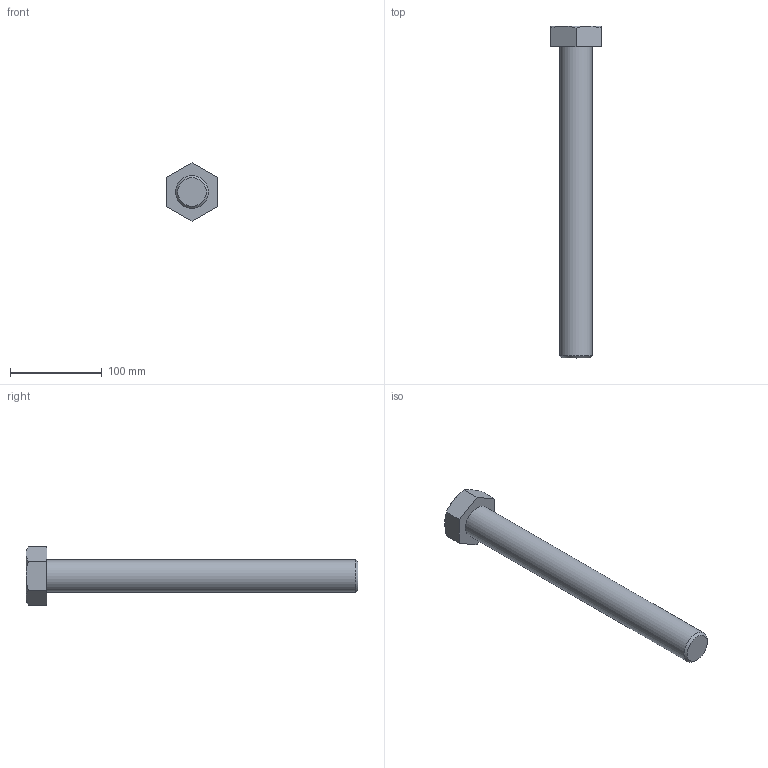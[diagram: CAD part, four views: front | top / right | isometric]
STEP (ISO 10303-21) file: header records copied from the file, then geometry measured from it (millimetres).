
FILE_DESCRIPTION(/* description */ (''),/* implementation_level */ '2;1');
FILE_NAME(/* name */ 'C:\Users\unitec\Documents\Inventor\各種小物\JIS\JIS B 1180 六角ボルト 等級C\hbc36\M36x340.stp',/* time_stamp */ '2015-02-13T14:56:33+09:00',/* author */ ('unitec'),/* organization */ (''),/* preprocessor_version */ 'ST-DEVELOPER v15.2',/* originating_system */ 'Autodesk Inventor 2014',/* authorisation */ '');
FILE_SCHEMA (('AUTOMOTIVE_DESIGN { 1 0 10303 214 3 1 1 }'));
Length unit declared in the file: millimetre
Products named in the file (1): M36x340
Bounding box: 55 x 362.5 x 63.51 mm (x, y, z)
Volume: 404517.1 mm3; surface area: 47686.5 mm2
Topology: 1 solids, 1 shells, 17 faces, 35 edges, 21 vertices
Faces by surface type: plane 9, cone 7, cylinder 1
Full cylindrical faces by diameter (mm): 36 x1
Entity records: 441 total; most frequent: CARTESIAN_POINT 96, ORIENTED_EDGE 66, DIRECTION 66, EDGE_CURVE 33, AXIS2_PLACEMENT_3D 27, VERTEX_POINT 21, EDGE_LOOP 20, ADVANCED_FACE 17
